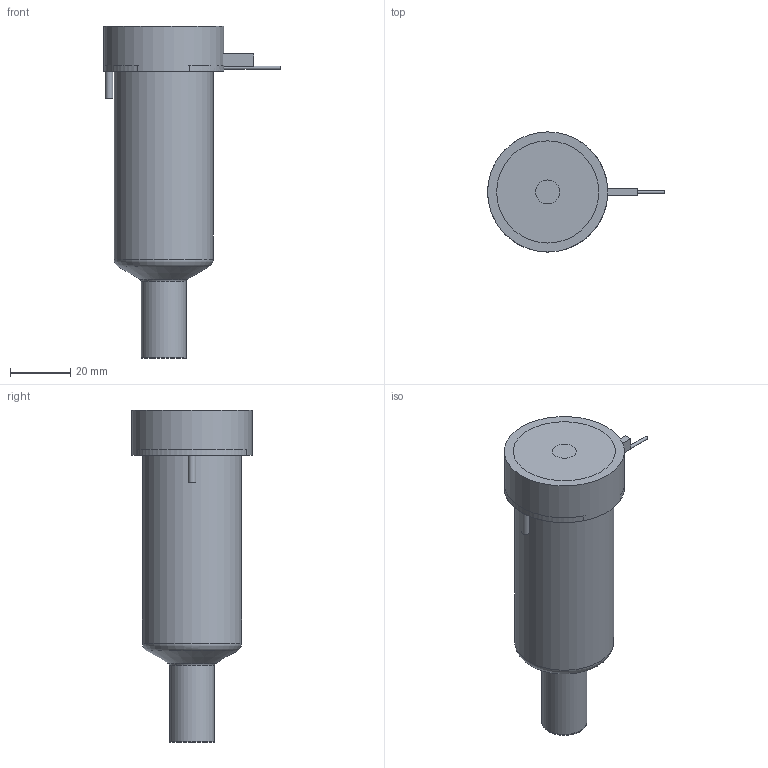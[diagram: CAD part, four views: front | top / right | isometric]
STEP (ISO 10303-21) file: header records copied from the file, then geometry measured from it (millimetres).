
FILE_DESCRIPTION(/* description */ (''),/* implementation_level */ '2;1');
FILE_NAME(/* name */ 'BXYCN19075P7F_250C_a',/* time_stamp */ '2016-02-19T11:49:48+13:00',/* author */ (''),/* organization */ (''),/* preprocessor_version */ 'ST-DEVELOPER v9',/* originating_system */ 'UGS - NX 4.0',/* authorisation */ '');
FILE_SCHEMA (('CONFIG_CONTROL_DESIGN'));
Length unit declared in the file: millimetre
Products named in the file (1): mattBAA7rexc
Bounding box: 58.85 x 40 x 110.53 mm (x, y, z)
Volume: 142544.2 mm3; surface area: 25079.8 mm2
Topology: 2 solids, 2 shells, 66 faces, 148 edges, 96 vertices
Faces by surface type: plane 31, cylinder 21, torus 7, cone 5, bspline 1, sphere 1
Full cylindrical faces by diameter (mm): 1 x2, 2.2 x1, 2.5 x1, 7 x1, 8 x1, 14.61 x1, 14.995 x2, 18.3 x1, 28.6 x1, 33 x1, 40 x1
Entity records: 1929 total; most frequent: CARTESIAN_POINT 483, DIRECTION 297, ORIENTED_EDGE 232, AXIS2_PLACEMENT_3D 127, EDGE_CURVE 116, EDGE_LOOP 102, VERTEX_POINT 88, ADVANCED_FACE 66
